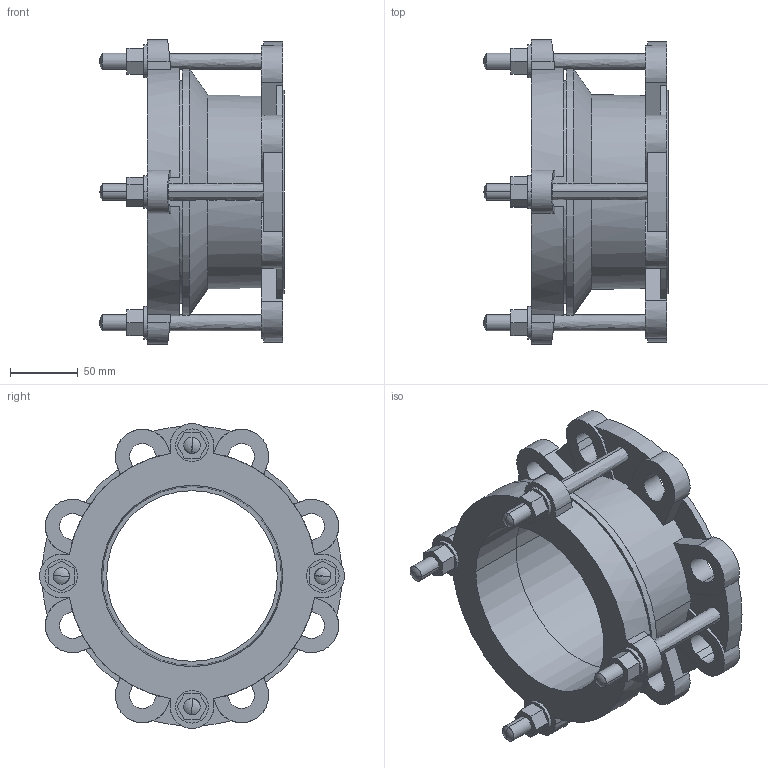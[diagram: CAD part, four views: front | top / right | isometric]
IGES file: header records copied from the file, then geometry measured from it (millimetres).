
Start section:  PTC IGES file: maxidaptor_107-132.igs
Global section: file name: maxidaptor_107-132.igs; native system: Creo Parametric by PTC Inc.; preprocessor: 2016130; author: MReader; organization: Unknown; date: 20181005.105453; units: millimetre
Bounding box: 136 x 224.5 x 224.5 mm (x, y, z)
Surface area: 204241.2 mm2 (no closed solid volume)
Topology: 0 solids, 0 shells, 215 faces, 1208 edges, 1200 vertices
Faces by surface type: bspline 121, revolution 94
